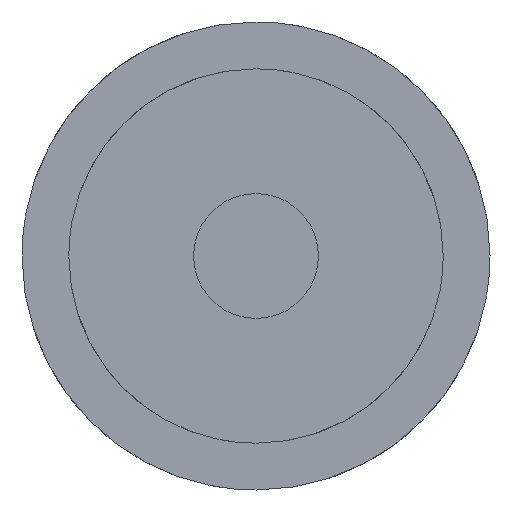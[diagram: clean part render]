
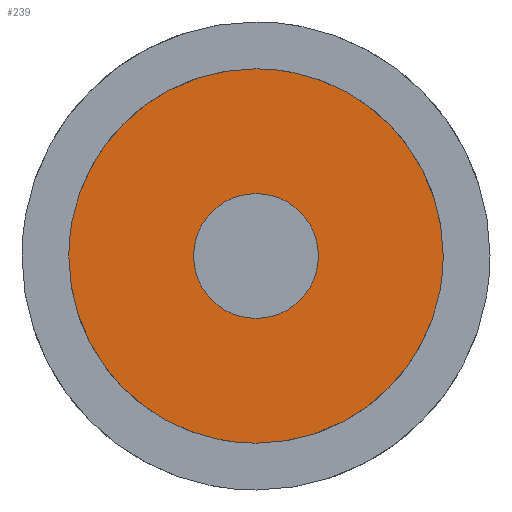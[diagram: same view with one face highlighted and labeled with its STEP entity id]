
A CAD part, front view. The second image highlights one B-rep face of the part: STEP entity #239.
In plain terms, the highlighted planar face has unit normal (0, -1, 0).
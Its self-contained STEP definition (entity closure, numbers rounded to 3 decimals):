
#63=CARTESIAN_POINT('Vertex',(0.,-199.,6.)) ;
#66=CARTESIAN_POINT('Axis2P3D Location',(0.,-199.,0.)) ;
#70=CARTESIAN_POINT('Vertex',(-6.,-199.,0.)) ;
#73=CARTESIAN_POINT('Axis2P3D Location',(0.,-199.,0.)) ;
#77=CARTESIAN_POINT('Vertex',(0.,-199.,-6.)) ;
#113=CARTESIAN_POINT('Axis2P3D Location',(0.,-199.,0.)) ;
#117=CARTESIAN_POINT('Vertex',(6.,-199.,0.)) ;
#120=CARTESIAN_POINT('Axis2P3D Location',(0.,-199.,0.)) ;
#146=CARTESIAN_POINT('Axis2P3D Location',(18.,-199.,0.)) ;
#152=CARTESIAN_POINT('Control Point',(18.,-199.,0.)) ;
#153=CARTESIAN_POINT('Control Point',(18.,-199.,1.663)) ;
#154=CARTESIAN_POINT('Control Point',(17.808,-199.,3.326)) ;
#155=CARTESIAN_POINT('Control Point',(17.424,-199.,4.959)) ;
#156=CARTESIAN_POINT('Control Point',(16.286,-199.,8.107)) ;
#157=CARTESIAN_POINT('Control Point',(14.46,-199.,10.913)) ;
#158=CARTESIAN_POINT('Control Point',(13.388,-199.,12.204)) ;
#159=CARTESIAN_POINT('Control Point',(10.967,-199.,14.515)) ;
#160=CARTESIAN_POINT('Control Point',(8.082,-199.,16.213)) ;
#161=CARTESIAN_POINT('Control Point',(6.547,-199.,16.891)) ;
#162=CARTESIAN_POINT('Control Point',(4.307,-199.,17.585)) ;
#163=CARTESIAN_POINT('Control Point',(1.998,-199.,17.907)) ;
#164=CARTESIAN_POINT('Control Point',(1.333,-199.,17.969)) ;
#165=CARTESIAN_POINT('Control Point',(0.667,-199.,18.)) ;
#166=CARTESIAN_POINT('Control Point',(0.,-199.,18.)) ;
#167=CARTESIAN_POINT('Vertex',(18.,-199.,0.)) ;
#169=CARTESIAN_POINT('Vertex',(0.,-199.,18.)) ;
#173=CARTESIAN_POINT('Control Point',(0.,-199.,18.)) ;
#174=CARTESIAN_POINT('Control Point',(-0.996,-199.,18.)) ;
#175=CARTESIAN_POINT('Control Point',(-1.992,-199.,17.931)) ;
#176=CARTESIAN_POINT('Control Point',(-2.982,-199.,17.793)) ;
#177=CARTESIAN_POINT('Control Point',(-5.59,-199.,17.244)) ;
#178=CARTESIAN_POINT('Control Point',(-8.064,-199.,16.222)) ;
#179=CARTESIAN_POINT('Control Point',(-9.53,-199.,15.406)) ;
#180=CARTESIAN_POINT('Control Point',(-12.248,-199.,13.451)) ;
#181=CARTESIAN_POINT('Control Point',(-14.448,-199.,10.928)) ;
#182=CARTESIAN_POINT('Control Point',(-15.397,-199.,9.545)) ;
#183=CARTESIAN_POINT('Control Point',(-16.804,-199.,6.877)) ;
#184=CARTESIAN_POINT('Control Point',(-17.63,-199.,3.984)) ;
#185=CARTESIAN_POINT('Control Point',(-17.877,-199.,2.666)) ;
#186=CARTESIAN_POINT('Control Point',(-18.,-199.,1.333)) ;
#187=CARTESIAN_POINT('Control Point',(-18.,-199.,0.)) ;
#188=CARTESIAN_POINT('Vertex',(-18.,-199.,0.)) ;
#192=CARTESIAN_POINT('Control Point',(-18.,-199.,0.)) ;
#193=CARTESIAN_POINT('Control Point',(-18.,-199.,-1.663)) ;
#194=CARTESIAN_POINT('Control Point',(-17.808,-199.,-3.326)) ;
#195=CARTESIAN_POINT('Control Point',(-17.424,-199.,-4.959)) ;
#196=CARTESIAN_POINT('Control Point',(-16.286,-199.,-8.107)) ;
#197=CARTESIAN_POINT('Control Point',(-14.46,-199.,-10.913)) ;
#198=CARTESIAN_POINT('Control Point',(-13.388,-199.,-12.204)) ;
#199=CARTESIAN_POINT('Control Point',(-10.967,-199.,-14.515)) ;
#200=CARTESIAN_POINT('Control Point',(-8.082,-199.,-16.213)) ;
#201=CARTESIAN_POINT('Control Point',(-6.547,-199.,-16.891)) ;
#202=CARTESIAN_POINT('Control Point',(-4.307,-199.,-17.585)) ;
#203=CARTESIAN_POINT('Control Point',(-1.998,-199.,-17.907)) ;
#204=CARTESIAN_POINT('Control Point',(-1.333,-199.,-17.969)) ;
#205=CARTESIAN_POINT('Control Point',(-0.667,-199.,-18.)) ;
#206=CARTESIAN_POINT('Control Point',(0.,-199.,-18.)) ;
#207=CARTESIAN_POINT('Vertex',(0.,-199.,-18.)) ;
#211=CARTESIAN_POINT('Control Point',(0.,-199.,-18.)) ;
#212=CARTESIAN_POINT('Control Point',(0.996,-199.,-18.)) ;
#213=CARTESIAN_POINT('Control Point',(1.992,-199.,-17.931)) ;
#214=CARTESIAN_POINT('Control Point',(2.982,-199.,-17.793)) ;
#215=CARTESIAN_POINT('Control Point',(5.59,-199.,-17.244)) ;
#216=CARTESIAN_POINT('Control Point',(8.064,-199.,-16.222)) ;
#217=CARTESIAN_POINT('Control Point',(9.53,-199.,-15.406)) ;
#218=CARTESIAN_POINT('Control Point',(12.248,-199.,-13.451)) ;
#219=CARTESIAN_POINT('Control Point',(14.448,-199.,-10.928)) ;
#220=CARTESIAN_POINT('Control Point',(15.397,-199.,-9.545)) ;
#221=CARTESIAN_POINT('Control Point',(16.804,-199.,-6.877)) ;
#222=CARTESIAN_POINT('Control Point',(17.63,-199.,-3.984)) ;
#223=CARTESIAN_POINT('Control Point',(17.877,-199.,-2.666)) ;
#224=CARTESIAN_POINT('Control Point',(18.,-199.,-1.333)) ;
#225=CARTESIAN_POINT('Control Point',(18.,-199.,0.)) ;
#67=DIRECTION('Axis2P3D Direction',(0.,1.,0.)) ;
#74=DIRECTION('Axis2P3D Direction',(0.,1.,0.)) ;
#114=DIRECTION('Axis2P3D Direction',(0.,1.,0.)) ;
#121=DIRECTION('Axis2P3D Direction',(0.,1.,0.)) ;
#147=DIRECTION('Axis2P3D Direction',(0.,1.,0.)) ;
#148=DIRECTION('Axis2P3D XDirection',(0.,-0.,1.)) ;
#68=AXIS2_PLACEMENT_3D('Circle Axis2P3D',#66,#67,$) ;
#75=AXIS2_PLACEMENT_3D('Circle Axis2P3D',#73,#74,$) ;
#115=AXIS2_PLACEMENT_3D('Circle Axis2P3D',#113,#114,$) ;
#122=AXIS2_PLACEMENT_3D('Circle Axis2P3D',#120,#121,$) ;
#149=AXIS2_PLACEMENT_3D('Plane Axis2P3D',#146,#147,#148) ;
#228=ORIENTED_EDGE('',*,*,#171,.T.) ;
#229=ORIENTED_EDGE('',*,*,#190,.T.) ;
#230=ORIENTED_EDGE('',*,*,#209,.T.) ;
#231=ORIENTED_EDGE('',*,*,#226,.T.) ;
#234=ORIENTED_EDGE('',*,*,#119,.F.) ;
#235=ORIENTED_EDGE('',*,*,#79,.F.) ;
#236=ORIENTED_EDGE('',*,*,#72,.F.) ;
#237=ORIENTED_EDGE('',*,*,#124,.F.) ;
#238=FACE_BOUND('',#233,.T.) ;
#239=ADVANCED_FACE('D995-1',(#232,#238),#150,.F.) ;
#151=B_SPLINE_CURVE_WITH_KNOTS('',5,(#152,#153,#154,#155,#156,#157,#158,#159,#160,#161,#162,#163,#164,#165,#166),.UNSPECIFIED.,.F.,.U.,(6,3,3,3,6),(0.,11.757,23.515,35.272,39.986),.UNSPECIFIED.) ;
#172=B_SPLINE_CURVE_WITH_KNOTS('',5,(#173,#174,#175,#176,#177,#178,#179,#180,#181,#182,#183,#184,#185,#186,#187),.UNSPECIFIED.,.F.,.U.,(6,3,3,3,6),(39.986,47.03,58.787,70.545,79.971),.UNSPECIFIED.) ;
#191=B_SPLINE_CURVE_WITH_KNOTS('',5,(#192,#193,#194,#195,#196,#197,#198,#199,#200,#201,#202,#203,#204,#205,#206),.UNSPECIFIED.,.F.,.U.,(6,3,3,3,6),(0.,11.757,23.515,35.272,39.986),.UNSPECIFIED.) ;
#210=B_SPLINE_CURVE_WITH_KNOTS('',5,(#211,#212,#213,#214,#215,#216,#217,#218,#219,#220,#221,#222,#223,#224,#225),.UNSPECIFIED.,.F.,.U.,(6,3,3,3,6),(39.986,47.03,58.787,70.545,79.971),.UNSPECIFIED.) ;
#69=CIRCLE('generated circle',#68,6.) ;
#76=CIRCLE('generated circle',#75,6.) ;
#116=CIRCLE('generated circle',#115,6.) ;
#123=CIRCLE('generated circle',#122,6.) ;
#72=EDGE_CURVE('',#64,#71,#69,.F.) ;
#79=EDGE_CURVE('',#71,#78,#76,.F.) ;
#119=EDGE_CURVE('',#78,#118,#116,.F.) ;
#124=EDGE_CURVE('',#118,#64,#123,.F.) ;
#171=EDGE_CURVE('',#168,#170,#151,.T.) ;
#190=EDGE_CURVE('',#170,#189,#172,.T.) ;
#209=EDGE_CURVE('',#189,#208,#191,.T.) ;
#226=EDGE_CURVE('',#208,#168,#210,.T.) ;
#227=EDGE_LOOP('',(#228,#229,#230,#231)) ;
#233=EDGE_LOOP('',(#234,#235,#236,#237)) ;
#232=FACE_OUTER_BOUND('',#227,.T.) ;
#150=PLANE('Plane',#149) ;
#64=VERTEX_POINT('',#63) ;
#71=VERTEX_POINT('',#70) ;
#78=VERTEX_POINT('',#77) ;
#118=VERTEX_POINT('',#117) ;
#168=VERTEX_POINT('',#167) ;
#170=VERTEX_POINT('',#169) ;
#189=VERTEX_POINT('',#188) ;
#208=VERTEX_POINT('',#207) ;
